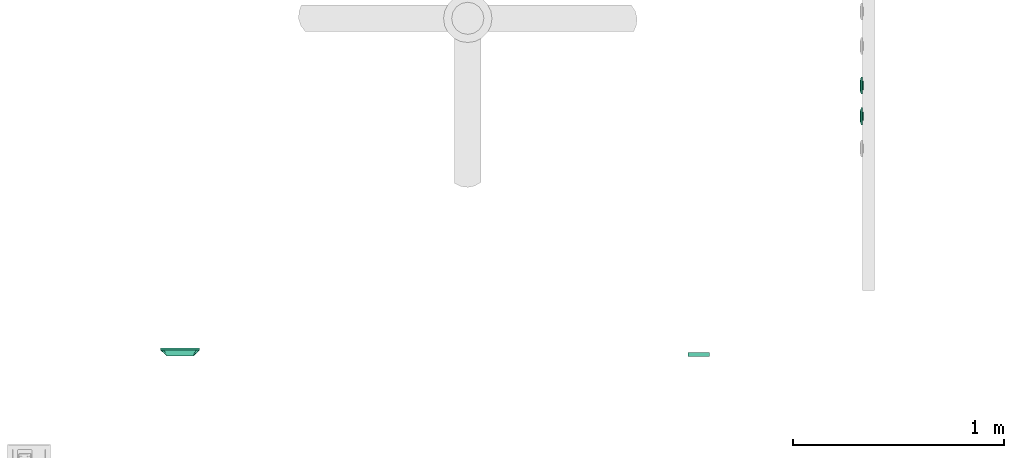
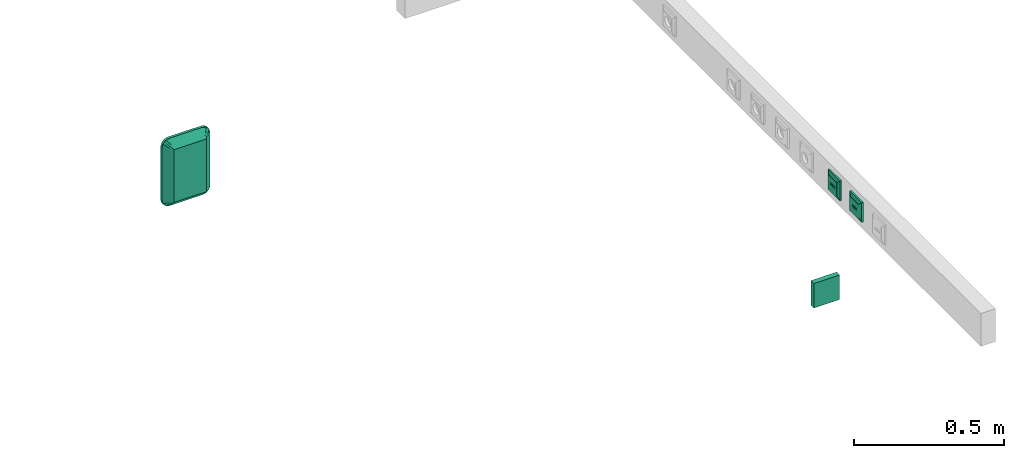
# One storey, part 19 of 166: 3 flow terminals, 1 distribution control element.
"""IFC2X3 building model written with IfcOpenShell, lengths in metres."""

from ifc_helpers import new_model, entity, si_unit, converted_unit, derived_unit, direction, frame, origin, origin_2d_with_axis, place, context, subcontext, project, spatial, rectangle, extrude, faceted_brep, source, transform, mapped, material, material_list, type_object, type_shapes, element, save


model = new_model("IFC2X3")

# Units and contexts
model_context = context("Model", 3, precision=1e-05, world=origin(), true_north=direction((6.12303176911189e-17, 1.0)))
body_context = subcontext(model_context, "Body", "Model", "MODEL_VIEW")
ifc_project = project(units=[si_unit("LENGTHUNIT", "METRE"), si_unit("AREAUNIT", "SQUARE_METRE"), si_unit("VOLUMEUNIT", "CUBIC_METRE"), converted_unit("PLANEANGLEUNIT", "DEGREE", entity("IfcRatioMeasure", 0.0174532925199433), si_unit("PLANEANGLEUNIT", "RADIAN"), dimensions=[0, 0, 0, 0, 0, 0, 0]), si_unit("MASSUNIT", "GRAM", prefix="KILO"), derived_unit("MASSDENSITYUNIT", [(si_unit("MASSUNIT", "GRAM", prefix="KILO"), 1), (si_unit("LENGTHUNIT", "METRE"), -3)]), si_unit("TIMEUNIT", "SECOND"), si_unit("FREQUENCYUNIT", "HERTZ"), si_unit("THERMODYNAMICTEMPERATUREUNIT", "DEGREE_CELSIUS"), derived_unit("THERMALTRANSMITTANCEUNIT", [(si_unit("MASSUNIT", "GRAM", prefix="KILO"), 1), (si_unit("THERMODYNAMICTEMPERATUREUNIT", "KELVIN"), -1), (si_unit("TIMEUNIT", "SECOND"), -3)]), derived_unit("VOLUMETRICFLOWRATEUNIT", [(si_unit("LENGTHUNIT", "METRE"), 3), (si_unit("TIMEUNIT", "SECOND"), -1)]), si_unit("ELECTRICCURRENTUNIT", "AMPERE"), si_unit("ELECTRICVOLTAGEUNIT", "VOLT"), si_unit("POWERUNIT", "WATT"), si_unit("FORCEUNIT", "NEWTON"), si_unit("ILLUMINANCEUNIT", "LUX"), si_unit("LUMINOUSFLUXUNIT", "LUMEN"), si_unit("LUMINOUSINTENSITYUNIT", "CANDELA"), derived_unit("USERDEFINED", [(si_unit("MASSUNIT", "GRAM", prefix="KILO"), -1), (si_unit("LENGTHUNIT", "METRE"), -2), (si_unit("TIMEUNIT", "SECOND"), 3), (si_unit("LUMINOUSFLUXUNIT", "LUMEN"), 1)]), derived_unit("LINEARVELOCITYUNIT", [(si_unit("LENGTHUNIT", "METRE"), 1), (si_unit("TIMEUNIT", "SECOND"), -1)]), si_unit("PRESSUREUNIT", "PASCAL"), derived_unit("USERDEFINED", [(si_unit("LENGTHUNIT", "METRE"), -2), (si_unit("MASSUNIT", "GRAM", prefix="KILO"), 1), (si_unit("TIMEUNIT", "SECOND"), -2)])], contexts=[model_context])

# Site, building, storey
site_placement = place(None, origin())
site = spatial("IfcSite", under=ifc_project, at=site_placement, Name="Default", CompositionType="ELEMENT")
building_placement = place(site_placement, origin())
building = spatial("IfcBuilding", under=site, at=building_placement, CompositionType="ELEMENT")
storey_placement = place(building_placement, frame((0.0, 0.0, 4.27)))
storey = spatial("IfcBuildingStorey", under=building, at=storey_placement, Name="01", CompositionType="ELEMENT", Elevation=4.27)

# Flow terminals
electric_appliance_type = type_object("IfcElectricApplianceType", Name="RJ45 IP20", PredefinedType="NOTDEFINED")
shared_shape_1 = source(origin(), body_context, "Body", "Brep", [
    faceted_brep([(0.00200000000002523, 0.0, 0.00799999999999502), (0.00400000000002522, 0.0, 0.00799999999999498), (0.00500000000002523, 0.00199999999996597, 0.00799999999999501), (0.0110000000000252, 0.00199999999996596, 0.00799999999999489), (0.0120000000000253, 0.0, 0.00799999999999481), (0.0140000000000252, 0.0, 0.00799999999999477), (0.0140000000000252, 0.00399999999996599, 0.00799999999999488), (0.00200000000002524, 0.00399999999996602, 0.00799999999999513), (0.00200000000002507, 0.0, 0.0), (0.00200000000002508, 0.00399999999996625, 0.0), (0.0140000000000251, 0.00399999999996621, 0.0), (0.0140000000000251, 0.0, 0.0), (0.0120000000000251, 0.0, 0.0), (0.0110000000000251, 0.00199999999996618, 0.0), (0.00500000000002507, 0.0019999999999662, 0.0), (0.00400000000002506, 0.0, 0.0)], [[[0, 1, 2, 3, 4, 5, 6, 7]], [[8, 9, 10, 11, 12, 13, 14, 15]], [[1, 0, 8, 15]], [[2, 1, 15, 14]], [[3, 2, 14, 13]], [[4, 3, 13, 12]], [[5, 4, 12, 11]], [[6, 5, 11, 10]], [[7, 6, 10, 9]], [[0, 7, 9, 8]]]),
    faceted_brep([(-0.0139999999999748, 0.0, 0.00799999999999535), (-0.0119999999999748, 0.0, 0.00799999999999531), (-0.0109999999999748, 0.00199999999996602, 0.00799999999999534), (-0.00499999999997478, 0.00199999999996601, 0.00799999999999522), (-0.0039999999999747, 0.0, 0.00799999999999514), (-0.00199999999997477, 0.0, 0.0079999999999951), (-0.00199999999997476, 0.00399999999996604, 0.00799999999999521), (-0.0139999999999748, 0.00399999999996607, 0.00799999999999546), (-0.0139999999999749, 0.0, 0.0), (-0.0139999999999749, 0.00399999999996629, 0.0), (-0.00199999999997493, 0.00399999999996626, 0.0), (-0.00199999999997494, 0.0, 0.0), (-0.00399999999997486, 0.0, 0.0), (-0.00499999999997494, 0.00199999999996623, 0.0), (-0.0109999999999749, 0.00199999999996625, 0.0), (-0.0119999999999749, 0.0, 0.0)], [[[0, 1, 2, 3, 4, 5, 6, 7]], [[8, 9, 10, 11, 12, 13, 14, 15]], [[1, 0, 8, 15]], [[2, 1, 15, 14]], [[3, 2, 14, 13]], [[4, 3, 13, 12]], [[5, 4, 12, 11]], [[6, 5, 11, 10]], [[7, 6, 10, 9]], [[0, 7, 9, 8]]]),
    faceted_brep([(0.0140000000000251, 0.00399999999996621, 0.0), (0.00200000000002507, 0.00399999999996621, 0.0), (0.00200000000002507, -0.00350000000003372, 0.0), (0.0140000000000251, -0.00350000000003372, 0.0), (0.0140000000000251, 0.00399999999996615, 0.00199999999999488), (0.00200000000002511, 0.00399999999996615, 0.00199999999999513), (0.00200000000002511, -0.00393859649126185, 0.00199999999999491), (0.0140000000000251, -0.00393859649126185, 0.00199999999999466), (0.0210000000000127, 0.0209999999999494, 0.00199999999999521), (-0.0209999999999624, 0.0209999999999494, 0.00199999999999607), (-0.0209999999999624, -0.0210000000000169, 0.00199999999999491), (0.0210000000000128, -0.0210000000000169, 0.00199999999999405), (-0.0139999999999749, 0.0039999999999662, 0.00199999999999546), (-0.0019999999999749, 0.0039999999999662, 0.00199999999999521), (-0.00199999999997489, -0.0039385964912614, 0.00199999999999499), (-0.0139999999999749, -0.00393859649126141, 0.00199999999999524), (0.0210000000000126, 0.0209999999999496, -0.00460000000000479), (0.0210000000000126, -0.0210000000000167, -0.00460000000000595), (-0.0209999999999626, -0.0210000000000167, -0.00460000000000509), (-0.0209999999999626, 0.0209999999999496, -0.00460000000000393), (-0.00199999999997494, 0.00399999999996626, 0.0), (-0.0139999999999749, 0.00399999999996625, 0.0), (-0.0139999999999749, -0.00350000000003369, 0.0), (-0.00199999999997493, -0.00350000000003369, 0.0)], [[[0, 1, 2, 3]], [[1, 0, 4, 5]], [[2, 1, 5, 6]], [[3, 2, 6, 7]], [[0, 3, 7, 4]], [[5, 4, 7, 6], [8, 9, 10, 11], [12, 13, 14, 15]], [[16, 17, 18, 19]], [[9, 8, 16, 19]], [[10, 9, 19, 18]], [[11, 10, 18, 17]], [[8, 11, 17, 16]], [[20, 21, 22, 23]], [[21, 20, 13, 12]], [[22, 21, 12, 15]], [[23, 22, 15, 14]], [[20, 23, 14, 13]]], outer=[[True], [True], [True], [True], [True], [False, True, False], [True], [True], [True], [True], [True], [True], [True], [True], [True], [True]]),
    faceted_brep([(0.0270000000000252, 0.026999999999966, 0.0113999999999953), (-0.0269999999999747, 0.026999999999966, 0.0113999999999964), (-0.0269999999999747, -0.0270000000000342, 0.0113999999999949), (0.0270000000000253, -0.0270000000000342, 0.0113999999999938), (0.0020000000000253, 0.00399999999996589, 0.0113999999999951), (0.0140000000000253, 0.00399999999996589, 0.0113999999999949), (0.0140000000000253, -0.00600000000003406, 0.0113999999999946), (0.0020000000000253, -0.00600000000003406, 0.0113999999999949), (-0.0139999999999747, 0.00399999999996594, 0.0113999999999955), (-0.00199999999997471, 0.00399999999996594, 0.0113999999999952), (-0.00199999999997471, -0.0060000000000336, 0.0113999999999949), (-0.0139999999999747, -0.00600000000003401, 0.0113999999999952), (0.0270000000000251, 0.0269999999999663, 0.00199999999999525), (0.0270000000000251, -0.0270000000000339, 0.00199999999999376), (-0.0269999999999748, -0.0270000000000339, 0.00199999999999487), (-0.0269999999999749, 0.0269999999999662, 0.00199999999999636), (0.0140000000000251, 0.00399999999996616, 0.00199999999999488), (0.00200000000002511, 0.00399999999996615, 0.00199999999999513), (0.00200000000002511, -0.00393859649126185, 0.00199999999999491), (0.0140000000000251, -0.00393859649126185, 0.00199999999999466), (-0.00199999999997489, 0.0039999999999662, 0.00199999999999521), (-0.0139999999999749, 0.0039999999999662, 0.00199999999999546), (-0.0139999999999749, -0.0039385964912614, 0.00199999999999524), (-0.00199999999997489, -0.0039385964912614, 0.00199999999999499)], [[[0, 1, 2, 3], [4, 5, 6, 7], [8, 9, 10, 11]], [[12, 13, 14, 15], [16, 17, 18, 19], [20, 21, 22, 23]], [[1, 0, 12, 15]], [[2, 1, 15, 14]], [[3, 2, 14, 13]], [[0, 3, 13, 12]], [[4, 17, 16, 5]], [[17, 4, 7, 18]], [[18, 7, 6, 19]], [[5, 16, 19, 6]], [[8, 21, 20, 9]], [[21, 8, 11, 22]], [[22, 11, 10, 23]], [[9, 20, 23, 10]]]),
    faceted_brep([(0.027000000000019, 0.0269999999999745, 0.00659999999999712), (-0.0269999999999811, 0.0269999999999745, 0.00659999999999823), (-0.026999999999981, -0.0270000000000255, 0.00659999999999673), (0.027000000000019, -0.0270000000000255, 0.00659999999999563), (0.040350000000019, 0.0403499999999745, 0.00659999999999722), (0.040350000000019, -0.0403500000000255, 0.00659999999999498), (-0.0403499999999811, -0.0403500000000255, 0.00659999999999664), (-0.0403499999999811, 0.0403499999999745, 0.00659999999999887), (-0.026999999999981, 0.0269999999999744, 0.0103999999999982), (0.027000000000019, 0.0269999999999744, 0.0103999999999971), (-0.026999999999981, -0.0270000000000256, 0.0103999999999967), (0.027000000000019, -0.0270000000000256, 0.0103999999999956)], [[[0, 1, 2, 3], [4, 5, 6, 7]], [[4, 7, 8, 9]], [[7, 6, 10, 8]], [[6, 5, 11, 10]], [[5, 4, 9, 11]], [[0, 9, 8, 1]], [[1, 8, 10, 2]], [[2, 10, 11, 3]], [[9, 0, 3, 11]]], outer=[[False, True], [True], [True], [True], [True], [True], [True], [True], [True]]),
    faceted_brep([(0.040350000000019, 0.0403499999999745, 0.00659999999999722), (-0.0403499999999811, 0.0403499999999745, 0.00659999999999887), (-0.0403499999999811, -0.0403500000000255, 0.00659999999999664), (0.040350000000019, -0.0403500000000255, 0.00659999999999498), (-0.0269999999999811, 0.0269999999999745, 0.00659999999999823), (0.0270000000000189, 0.0269999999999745, 0.00659999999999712), (0.0270000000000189, -0.0270000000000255, 0.00659999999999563), (-0.0269999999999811, -0.0270000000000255, 0.00659999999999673), (0.0403500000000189, 0.0403499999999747, 0.0), (0.0403500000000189, -0.0403500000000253, 0.0), (-0.0403499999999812, -0.0403500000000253, 0.0), (-0.0403499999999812, 0.0403499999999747, 0.0), (0.0270000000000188, 0.0269999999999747, 0.0), (-0.0269999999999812, 0.0269999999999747, 0.0), (-0.0269999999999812, -0.0270000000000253, 0.0), (0.0270000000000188, -0.0270000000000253, 0.0)], [[[0, 1, 2, 3], [4, 5, 6, 7]], [[8, 9, 10, 11], [12, 13, 14, 15]], [[1, 0, 8, 11]], [[2, 1, 11, 10]], [[3, 2, 10, 9]], [[0, 3, 9, 8]], [[12, 5, 4, 13]], [[13, 4, 7, 14]], [[14, 7, 6, 15]], [[5, 12, 15, 6]]]),
])
type_shapes(electric_appliance_type, [shared_shape_1])
for number, where, z_axis, x_axis in (
    (1, (29.3537440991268, -192.373423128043, 4.70800000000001), (-1.0, 0.0, 0.0), (0.0, -1.0, 0.0)),
    (2, (29.3537440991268, -192.228264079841, 4.70800000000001), (-1.0, 0.0, 0.0), (0.0, -1.0, 0.0)),
):
    element("IfcFlowTerminal", number, at=place(building_placement, frame(where, z_axis=z_axis, x_axis=x_axis)), inside=storey, type_object=electric_appliance_type, Name="INT_Prise RJ45:RJ45 IP20", ObjectType="INT_Prise RJ45:RJ45 IP20", context=body_context, shape_type="MappedRepresentation", body=[
        mapped(shared_shape_1, transform((0.0, 0.0, 0.0), scale=1.0)),
    ])
light_fixture_type = type_object("IfcLightFixtureType", Name="Default", PredefinedType="NOTDEFINED")
shared_shape_2 = source(origin(), body_context, "Body", "SweptSolid", [
    extrude(rectangle(XDim=0.1, YDim=0.1, at=origin_2d_with_axis()), frame((0.0, 0.0, 0.0), z_axis=(0.0, 0.0, 1.0), x_axis=(0.0, 1.0, 0.0)), (0.0, 0.0, 1.0), 0.02),
])
type_shapes(light_fixture_type, [shared_shape_2])
flow_terminal_placement = place(building_placement, frame((28.5797436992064, -193.489651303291, 5.32000000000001), z_axis=(0.0, -1.0, 0.0), x_axis=(1.0, 0.0, 0.0)))
element("IfcFlowTerminal", 3, at=flow_terminal_placement, inside=storey, type_object=light_fixture_type, Name="E_Reader_Badge 1_F_MEPcontent:Default", ObjectType="E_Reader_Badge 1_F_MEPcontent:Default", context=body_context, shape_type="MappedRepresentation", body=[
    mapped(shared_shape_2, transform((0.0, 0.0, 0.0), scale=1.0)),
])

# Distribution control element
ifc_material_1 = material(Name="Default grid")
ifc_material_2 = material(Name="White Plastic")
ifc_material_list_1 = material_list([ifc_material_1, ifc_material_2])
ifc_material_list_2 = material_list([ifc_material_1, ifc_material_2])
alarm_type = type_object("IfcAlarmType", Name="Incendie_Diffuseur sonore", PredefinedType="NOTDEFINED", material=ifc_material_list_2)
shared_shape_3 = source(origin(), body_context, "Body", "Brep", [
    faceted_brep([(0.0625000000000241, 0.107499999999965, 0.0379999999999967), (-0.0624999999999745, 0.107499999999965, 0.0379999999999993), (-0.0624999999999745, -0.107500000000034, 0.0379999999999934), (0.0625000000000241, -0.107500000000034, 0.0379999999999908), (0.0625000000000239, 0.107499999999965, 0.0279999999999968), (0.062500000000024, -0.107500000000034, 0.0279999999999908), (-0.0624999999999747, -0.107500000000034, 0.0279999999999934), (-0.0624999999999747, 0.107499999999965, 0.0279999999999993)], [[[0, 1, 2, 3]], [[4, 5, 6, 7]], [[1, 0, 4, 7]], [[2, 1, 7, 6]], [[3, 2, 6, 5]], [[0, 3, 5, 4]]]),
    faceted_brep([(0.0857355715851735, -0.125245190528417, 0.00999999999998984), (0.0829903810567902, -0.1279903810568, 0.00999999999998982), (0.0802451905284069, -0.130735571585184, 0.0099999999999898), (0.0775000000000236, -0.133480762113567, 0.00999999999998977), (0.0760711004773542, -0.133863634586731, 0.0099999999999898), (0.0746422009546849, -0.134246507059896, 0.00999999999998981), (0.0717844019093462, -0.135012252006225, 0.00999999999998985), (0.0694633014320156, -0.135634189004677, 0.00999999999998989), (0.0671422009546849, -0.136256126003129, 0.00999999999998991), (0.0625000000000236, -0.137500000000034, 0.00999999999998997), (-0.0624999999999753, -0.137500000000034, 0.00999999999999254), (-0.0648211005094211, -0.136878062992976, 0.00999999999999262), (-0.0671422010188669, -0.136256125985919, 0.00999999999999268), (-0.0717844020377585, -0.135012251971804, 0.00999999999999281), (-0.0732133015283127, -0.134629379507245, 0.00999999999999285), (-0.0746422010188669, -0.134246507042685, 0.0099999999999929), (-0.0774999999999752, -0.133480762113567, 0.00999999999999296), (-0.0802451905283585, -0.130735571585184, 0.0099999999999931), (-0.0829903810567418, -0.1279903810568, 0.00999999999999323), (-0.085735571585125, -0.125245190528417, 0.00999999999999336), (-0.0884807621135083, -0.122500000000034, 0.00999999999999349), (-0.0888636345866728, -0.121071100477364, 0.00999999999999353), (-0.0892465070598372, -0.119642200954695, 0.00999999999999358), (-0.0900122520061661, -0.116784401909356, 0.00999999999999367), (-0.0906341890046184, -0.114463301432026, 0.00999999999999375), (-0.0912561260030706, -0.112142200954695, 0.00999999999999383), (-0.0924999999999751, -0.107500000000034, 0.00999999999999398), (-0.0924999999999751, 0.107499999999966, 0.00999999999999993), (-0.0918780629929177, 0.109821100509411, 0.00999999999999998), (-0.0912561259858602, 0.112142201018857, 0.01), (-0.0900122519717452, 0.116784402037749, 0.0100000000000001), (-0.089629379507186, 0.118213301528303, 0.0100000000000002), (-0.0892465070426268, 0.119642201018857, 0.0100000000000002), (-0.0884807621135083, 0.122499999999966, 0.0100000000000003), (-0.085735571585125, 0.125245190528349, 0.0100000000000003), (-0.0829903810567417, 0.127990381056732, 0.0100000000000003), (-0.0802451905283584, 0.130735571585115, 0.0100000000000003), (-0.0774999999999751, 0.133480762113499, 0.0100000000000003), (-0.0760711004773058, 0.133863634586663, 0.0100000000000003), (-0.0746422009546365, 0.134246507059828, 0.0100000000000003), (-0.0717844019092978, 0.135012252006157, 0.0100000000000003), (-0.0694633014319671, 0.135634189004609, 0.0100000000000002), (-0.0671422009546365, 0.136256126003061, 0.0100000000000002), (-0.0624999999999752, 0.137499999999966, 0.0100000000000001), (0.0625000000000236, 0.137499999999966, 0.00999999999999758), (0.0648211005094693, 0.136878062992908, 0.00999999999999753), (0.0671422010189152, 0.136256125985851, 0.00999999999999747), (0.0717844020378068, 0.135012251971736, 0.00999999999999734), (0.073213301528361, 0.134629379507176, 0.0099999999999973), (0.0746422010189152, 0.134246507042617, 0.00999999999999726), (0.0775000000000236, 0.133480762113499, 0.00999999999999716), (0.0802451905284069, 0.130735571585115, 0.00999999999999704), (0.0829903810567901, 0.127990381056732, 0.00999999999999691), (0.0857355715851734, 0.125245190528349, 0.00999999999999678), (0.0884807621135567, 0.122499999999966, 0.00999999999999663), (0.0888636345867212, 0.121071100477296, 0.00999999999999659), (0.0892465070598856, 0.119642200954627, 0.00999999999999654), (0.0900122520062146, 0.116784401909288, 0.00999999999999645), (0.0906341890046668, 0.114463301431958, 0.00999999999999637), (0.0912561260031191, 0.112142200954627, 0.00999999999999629), (0.0925000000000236, 0.107499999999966, 0.00999999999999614), (0.0925000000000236, -0.107500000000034, 0.00999999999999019), (0.0918780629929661, -0.109821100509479, 0.00999999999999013), (0.0912561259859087, -0.112142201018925, 0.00999999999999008), (0.0900122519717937, -0.116784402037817, 0.00999999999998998), (0.0896293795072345, -0.118213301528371, 0.00999999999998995), (0.0892465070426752, -0.119642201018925, 0.00999999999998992), (0.0884807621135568, -0.122500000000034, 0.00999999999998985), (-0.0624999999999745, -0.107500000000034, 0.0379999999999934), (-0.0624999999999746, 0.107499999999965, 0.0379999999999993), (-0.066978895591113, 0.107499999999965, 0.0338196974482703), (-0.0714577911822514, 0.107499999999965, 0.0296393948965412), (-0.0759366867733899, 0.107499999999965, 0.0254590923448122), (-0.0804155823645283, 0.107499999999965, 0.0212787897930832), (-0.0864577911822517, 0.107499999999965, 0.0156393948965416), (-0.0894788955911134, 0.107499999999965, 0.0128196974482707), (-0.0864577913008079, -0.107500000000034, 0.0156393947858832), (-0.0834366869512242, -0.107500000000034, 0.0184590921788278), (-0.0804155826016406, -0.107500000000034, 0.0212787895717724), (-0.0759366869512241, -0.107500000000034, 0.0254590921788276), (-0.0714577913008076, -0.107500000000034, 0.0296393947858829), (-0.066978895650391, -0.107500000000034, 0.0338196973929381), (-0.0624999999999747, -0.116457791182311, 0.0296393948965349), (-0.0624999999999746, -0.111978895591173, 0.0338196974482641), (-0.0624999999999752, -0.134478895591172, 0.0128196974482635), (-0.0624999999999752, -0.131457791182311, 0.0156393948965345), (-0.062499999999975, -0.125415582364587, 0.0212787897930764), (-0.0624999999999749, -0.120936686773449, 0.0254590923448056), (0.0625000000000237, -0.131457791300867, 0.0156393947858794), (0.0625000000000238, -0.128436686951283, 0.0184590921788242), (0.0625000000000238, -0.1254155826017, 0.0212787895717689), (0.0625000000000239, -0.120936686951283, 0.0254590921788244), (0.062500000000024, -0.116457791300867, 0.0296393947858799), (0.0625000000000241, -0.111978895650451, 0.0338196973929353), (0.0625000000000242, -0.107500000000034, 0.0379999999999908), (0.0714577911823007, -0.107500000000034, 0.0296393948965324), (0.0669788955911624, -0.107500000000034, 0.0338196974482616), (0.089478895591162, -0.107500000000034, 0.0128196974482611), (0.0864577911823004, -0.107500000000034, 0.0156393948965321), (0.0804155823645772, -0.107500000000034, 0.0212787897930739), (0.075936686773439, -0.107500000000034, 0.0254590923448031), (0.0864577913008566, 0.107499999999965, 0.0156393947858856), (0.0834366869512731, 0.107499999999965, 0.0184590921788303), (0.0804155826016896, 0.107499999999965, 0.021278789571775), (0.0759366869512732, 0.107499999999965, 0.0254590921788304), (0.0714577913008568, 0.107499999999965, 0.0296393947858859), (0.0669788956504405, 0.107499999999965, 0.0338196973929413), (0.0625000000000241, 0.107499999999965, 0.0379999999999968), (0.062500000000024, 0.116457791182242, 0.0296393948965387), (0.062500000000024, 0.111978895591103, 0.0338196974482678), (0.0625000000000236, 0.134478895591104, 0.0128196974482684), (0.0625000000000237, 0.131457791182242, 0.0156393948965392), (0.0625000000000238, 0.125415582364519, 0.0212787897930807), (0.0625000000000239, 0.12093668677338, 0.0254590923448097), (-0.062499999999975, 0.131457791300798, 0.0156393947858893), (-0.062499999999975, 0.128436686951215, 0.0184590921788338), (-0.0624999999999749, 0.125415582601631, 0.0212787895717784), (-0.0624999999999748, 0.120936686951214, 0.0254590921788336), (-0.0624999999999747, 0.116457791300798, 0.0296393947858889), (-0.0624999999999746, 0.111978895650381, 0.0338196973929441), (0.0625000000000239, 0.107499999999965, 0.0279999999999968), (-0.0624999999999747, 0.107499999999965, 0.0279999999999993), (-0.0624999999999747, -0.107500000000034, 0.0279999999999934), (0.062500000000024, -0.107500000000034, 0.0279999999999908)], [[[0, 1, 2, 3, 4, 5, 6, 7, 8, 9, 10, 11, 12, 13, 14, 15, 16, 17, 18, 19, 20, 21, 22, 23, 24, 25, 26, 27, 28, 29, 30, 31, 32, 33, 34, 35, 36, 37, 38, 39, 40, 41, 42, 43, 44, 45, 46, 47, 48, 49, 50, 51, 52, 53, 54, 55, 56, 57, 58, 59, 60, 61, 62, 63, 64, 65, 66, 67]], [[68, 69, 70, 71, 72, 73, 74, 75, 27, 26, 76, 77, 78, 79, 80, 81]], [[80, 20, 19]], [[82, 17, 16]], [[83, 18, 17]], [[19, 18, 81]], [[20, 80, 79, 78, 77, 76, 26, 25, 24, 23, 22, 21]], [[14, 13, 12, 11, 10, 84, 85, 86, 87, 82, 16, 15]], [[18, 83, 68]], [[82, 83, 17]], [[18, 68, 81]], [[80, 19, 81]], [[9, 88, 89, 90, 91, 92, 93, 94, 68, 83, 82, 87, 86, 85, 84, 10]], [[92, 3, 2]], [[95, 0, 67]], [[96, 1, 0]], [[2, 1, 93]], [[3, 92, 91, 90, 89, 88, 9, 8, 7, 6, 5, 4]], [[65, 64, 63, 62, 61, 97, 98, 99, 100, 95, 67, 66]], [[1, 96, 94]], [[95, 96, 0]], [[1, 94, 93]], [[92, 2, 93]], [[60, 101, 102, 103, 104, 105, 106, 107, 94, 96, 95, 100, 99, 98, 97, 61]], [[105, 54, 53]], [[108, 51, 50]], [[109, 52, 51]], [[53, 52, 106]], [[54, 105, 104, 103, 102, 101, 60, 59, 58, 57, 56, 55]], [[48, 47, 46, 45, 44, 110, 111, 112, 113, 108, 50, 49]], [[52, 109, 107]], [[108, 109, 51]], [[52, 107, 106]], [[105, 53, 106]], [[69, 107, 109, 108, 113, 112, 111, 110, 44, 43, 114, 115, 116, 117, 118, 119]], [[118, 37, 36]], [[71, 34, 33]], [[70, 35, 34]], [[36, 35, 119]], [[37, 118, 117, 116, 115, 114, 43, 42, 41, 40, 39, 38]], [[31, 30, 29, 28, 27, 75, 74, 73, 72, 71, 33, 32]], [[35, 70, 69]], [[71, 70, 34]], [[35, 69, 119]], [[118, 36, 119]], [[120, 121, 122, 123]], [[120, 107, 69, 121]], [[121, 69, 68, 122]], [[122, 68, 94, 123]], [[123, 94, 107, 120]]]),
    faceted_brep([(0.0625000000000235, 0.137499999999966, 0.00999999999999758), (-0.0624999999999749, 0.137499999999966, 0.0100000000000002), (-0.0702645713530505, 0.136477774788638, 0.0100000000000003), (-0.0774999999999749, 0.133480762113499, 0.0100000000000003), (-0.0837132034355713, 0.128713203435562, 0.0100000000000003), (-0.0884807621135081, 0.122499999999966, 0.0100000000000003), (-0.0914777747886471, 0.115264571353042, 0.0100000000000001), (-0.0924999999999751, 0.107499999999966, 0.00999999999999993), (-0.0924999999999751, -0.107500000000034, 0.00999999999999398), (-0.0914777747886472, -0.115264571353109, 0.00999999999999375), (-0.0884807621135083, -0.122500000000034, 0.00999999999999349), (-0.0837132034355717, -0.12871320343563, 0.00999999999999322), (-0.0774999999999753, -0.133480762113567, 0.00999999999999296), (-0.0702645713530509, -0.136477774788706, 0.00999999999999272), (-0.0624999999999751, -0.137500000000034, 0.00999999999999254), (0.0625000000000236, -0.137500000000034, 0.00999999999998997), (0.0702645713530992, -0.136477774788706, 0.00999999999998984), (0.0775000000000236, -0.133480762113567, 0.00999999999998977), (0.08371320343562, -0.12871320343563, 0.00999999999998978), (0.0884807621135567, -0.122500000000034, 0.00999999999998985), (0.0914777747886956, -0.115264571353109, 0.00999999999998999), (0.0925000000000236, -0.107500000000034, 0.00999999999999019), (0.0925000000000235, 0.107499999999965, 0.00999999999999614), (0.0914777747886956, 0.115264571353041, 0.00999999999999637), (0.0884807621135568, 0.122499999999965, 0.00999999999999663), (0.0837132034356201, 0.128713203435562, 0.0099999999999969), (0.0775000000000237, 0.133480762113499, 0.00999999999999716), (0.0702645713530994, 0.136477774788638, 0.00999999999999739), (-0.0624999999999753, 0.137499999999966, 0.0), (0.0625000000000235, 0.137499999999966, 0.0), (0.0702645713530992, 0.136477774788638, 0.0), (0.0775000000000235, 0.133480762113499, 0.0), (0.0837132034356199, 0.128713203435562, 0.0), (0.0884807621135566, 0.122499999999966, 0.0), (0.0914777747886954, 0.115264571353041, 0.0), (0.0925000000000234, 0.107499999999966, 0.0), (0.0925000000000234, -0.107500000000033, 0.0), (0.0914777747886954, -0.115264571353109, 0.0), (0.0884807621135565, -0.122500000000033, 0.0), (0.0837132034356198, -0.12871320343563, 0.0), (0.0775000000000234, -0.133480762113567, 0.0), (0.070264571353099, -0.136477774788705, 0.0), (0.0625000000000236, -0.137500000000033, 0.0), (-0.0624999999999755, -0.137500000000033, 0.0), (-0.0702645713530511, -0.136477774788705, 0.0), (-0.0774999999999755, -0.133480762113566, 0.0), (-0.0837132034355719, -0.12871320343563, 0.0), (-0.0884807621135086, -0.122500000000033, 0.0), (-0.0914777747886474, -0.115264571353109, 0.0), (-0.0924999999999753, -0.107500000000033, 0.0), (-0.0924999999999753, 0.107499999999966, 0.0), (-0.0914777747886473, 0.115264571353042, 0.0), (-0.0884807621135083, 0.122499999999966, 0.0), (-0.0837132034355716, 0.128713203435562, 0.0), (-0.0774999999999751, 0.133480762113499, 0.0), (-0.0702645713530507, 0.136477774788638, 0.0)], [[[0, 1, 2, 3, 4, 5, 6, 7, 8, 9, 10, 11, 12, 13, 14, 15, 16, 17, 18, 19, 20, 21, 22, 23, 24, 25, 26, 27]], [[28, 29, 30, 31, 32, 33, 34, 35, 36, 37, 38, 39, 40, 41, 42, 43, 44, 45, 46, 47, 48, 49, 50, 51, 52, 53, 54, 55]], [[1, 0, 29, 28]], [[2, 1, 28, 55]], [[3, 2, 55, 54]], [[4, 3, 54, 53]], [[5, 4, 53, 52]], [[6, 5, 52, 51]], [[7, 6, 51, 50]], [[8, 7, 50, 49]], [[9, 8, 49, 48]], [[10, 9, 48, 47]], [[11, 10, 47, 46]], [[12, 11, 46, 45]], [[13, 12, 45, 44]], [[14, 13, 44, 43]], [[15, 14, 43, 42]], [[16, 15, 42, 41]], [[17, 16, 41, 40]], [[18, 17, 40, 39]], [[19, 18, 39, 38]], [[20, 19, 38, 37]], [[21, 20, 37, 36]], [[22, 21, 36, 35]], [[23, 22, 35, 34]], [[24, 23, 34, 33]], [[25, 24, 33, 32]], [[26, 25, 32, 31]], [[27, 26, 31, 30]], [[0, 27, 30, 29]]]),
])
type_shapes(alarm_type, [shared_shape_3])
distribution_control_element_placement = place(building_placement, frame((26.1271093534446, -193.469651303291, 6.67000000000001), z_axis=(0.0, -1.0, 0.0), x_axis=(1.0, 0.0, 0.0)))
element("IfcDistributionControlElement", 4, at=distribution_control_element_placement, inside=storey, type_object=alarm_type, material=ifc_material_list_1, Name="INT_DIffuseur sonore:Incendie_Diffuseur sonore", ObjectType="INT_DIffuseur sonore:Incendie_Diffuseur sonore", context=body_context, shape_type="MappedRepresentation", body=[
    mapped(shared_shape_3, transform((0.0, 0.0, 0.0), scale=1.0)),
])

save(model, "model.ifc")
